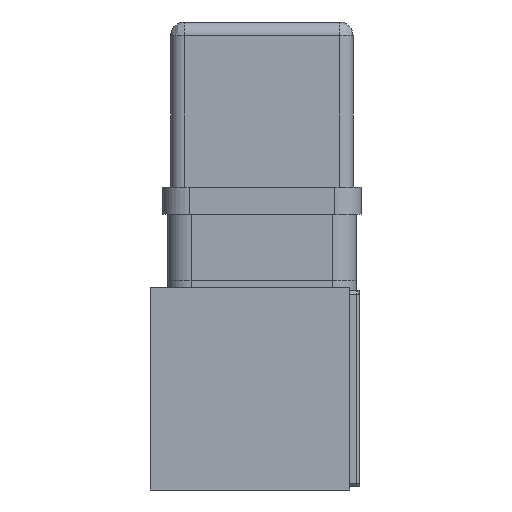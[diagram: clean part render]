
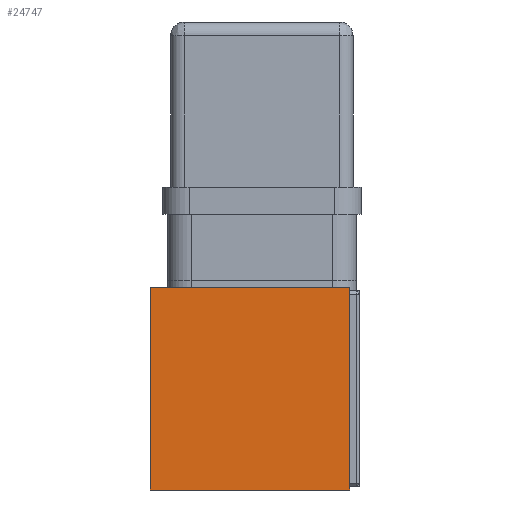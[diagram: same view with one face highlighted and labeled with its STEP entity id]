
A CAD part, left-side view. The second image highlights one B-rep face of the part: STEP entity #24747.
In plain terms, the highlighted planar face has unit normal (-1, 0, 0).
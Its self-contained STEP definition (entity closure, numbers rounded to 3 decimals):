
#262 = LINE ( 'NONE', #17914, #20091 ) ;
#3590 = VERTEX_POINT ( 'NONE', #11212 ) ;
#4694 = LINE ( 'NONE', #21150, #10778 ) ;
#4951 = VECTOR ( 'NONE', #7251, 1000. ) ;
#4977 = EDGE_LOOP ( 'NONE', ( #26301, #25803, #25674, #25423 ) ) ;
#7251 = DIRECTION ( 'NONE',  ( 0., 0., -1. ) ) ;
#8701 = PLANE ( 'NONE',  #31584 ) ;
#8808 = DIRECTION ( 'NONE',  ( -1., 0., 0. ) ) ;
#10778 = VECTOR ( 'NONE', #10882, 1000. ) ;
#10882 = DIRECTION ( 'NONE',  ( 0., 1., 0. ) ) ;
#11212 = CARTESIAN_POINT ( 'NONE',  ( 0., 14.75, 15. ) ) ;
#11848 = LINE ( 'NONE', #14940, #4951 ) ;
#13815 = FACE_OUTER_BOUND ( 'NONE', #4977, .T. ) ;
#14940 = CARTESIAN_POINT ( 'NONE',  ( 0., -14.75, 15. ) ) ;
#15507 = CARTESIAN_POINT ( 'NONE',  ( 0., -14.75, -15. ) ) ;
#17914 = CARTESIAN_POINT ( 'NONE',  ( 0., -14.75, 15. ) ) ;
#18501 = CARTESIAN_POINT ( 'NONE',  ( 0., 14.75, 15. ) ) ;
#20091 = VECTOR ( 'NONE', #20506, 1000. ) ;
#20506 = DIRECTION ( 'NONE',  ( 0., -1., 0. ) ) ;
#21101 = DIRECTION ( 'NONE',  ( 0., 0., 1. ) ) ;
#21150 = CARTESIAN_POINT ( 'NONE',  ( 0., -14.75, -15. ) ) ;
#24253 = CARTESIAN_POINT ( 'NONE',  ( 0., 14.75, -15. ) ) ;
#24263 = EDGE_CURVE ( 'NONE', #31669, #28353, #11848, .T. ) ;
#24747 = ADVANCED_FACE ( 'NONE', ( #13815 ), #8701, .T. ) ;
#25046 = CARTESIAN_POINT ( 'NONE',  ( 0., -14.75, 15. ) ) ;
#25094 = VERTEX_POINT ( 'NONE', #28519 ) ;
#25423 = ORIENTED_EDGE ( 'NONE', *, *, #30817, .F. ) ;
#25674 = ORIENTED_EDGE ( 'NONE', *, *, #27229, .F. ) ;
#25719 = EDGE_CURVE ( 'NONE', #28353, #25094, #4694, .T. ) ;
#25803 = ORIENTED_EDGE ( 'NONE', *, *, #24263, .F. ) ;
#26301 = ORIENTED_EDGE ( 'NONE', *, *, #25719, .F. ) ;
#26784 = DIRECTION ( 'NONE',  ( 0., 0., 1. ) ) ;
#27229 = EDGE_CURVE ( 'NONE', #3590, #31669, #262, .T. ) ;
#28353 = VERTEX_POINT ( 'NONE', #15507 ) ;
#28519 = CARTESIAN_POINT ( 'NONE',  ( 0., 14.75, -15. ) ) ;
#29072 = VECTOR ( 'NONE', #21101, 1000. ) ;
#29871 = LINE ( 'NONE', #18501, #29072 ) ;
#30817 = EDGE_CURVE ( 'NONE', #25094, #3590, #29871, .T. ) ;
#31584 = AXIS2_PLACEMENT_3D ( 'NONE', #24253, #8808, #26784 ) ;
#31669 = VERTEX_POINT ( 'NONE', #25046 ) ;
